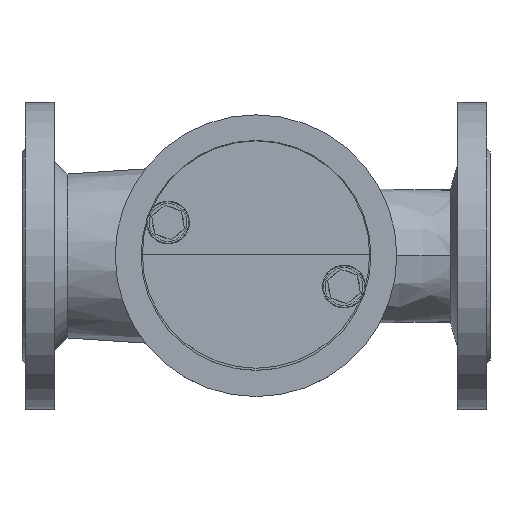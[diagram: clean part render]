
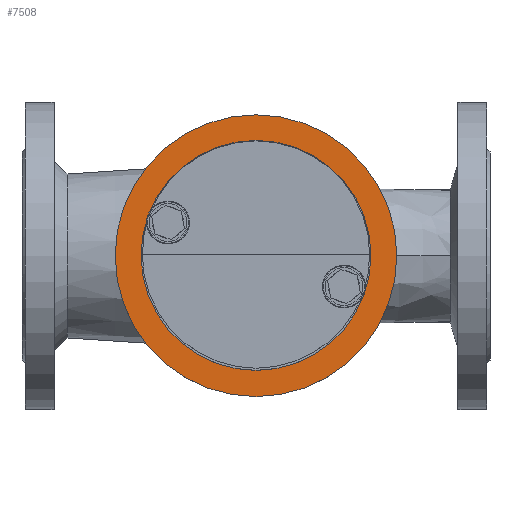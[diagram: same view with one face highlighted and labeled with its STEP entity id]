
A CAD part, top view. The second image highlights one B-rep face of the part: STEP entity #7508.
In plain terms, the highlighted planar face has unit normal (0, 0, 1).
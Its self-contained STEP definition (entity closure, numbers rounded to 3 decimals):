
#1292=FACE_BOUND('',#1917,.T.);
#1362=FACE_OUTER_BOUND('',#1916,.T.);
#1916=EDGE_LOOP('',(#4939,#4940));
#1917=EDGE_LOOP('',(#4941,#4942));
#2479=CIRCLE('',#8169,105.35);
#2480=CIRCLE('',#8170,105.35);
#2481=CIRCLE('',#8171,22.5);
#2482=CIRCLE('',#8172,22.5);
#3115=VERTEX_POINT('',#11780);
#3116=VERTEX_POINT('',#11781);
#3117=VERTEX_POINT('',#11784);
#3118=VERTEX_POINT('',#11785);
#3738=EDGE_CURVE('',#3115,#3116,#2479,.T.);
#3739=EDGE_CURVE('',#3116,#3115,#2480,.T.);
#3740=EDGE_CURVE('',#3117,#3118,#2481,.T.);
#3741=EDGE_CURVE('',#3118,#3117,#2482,.T.);
#4939=ORIENTED_EDGE('',*,*,#3738,.T.);
#4940=ORIENTED_EDGE('',*,*,#3739,.T.);
#4941=ORIENTED_EDGE('',*,*,#3740,.T.);
#4942=ORIENTED_EDGE('',*,*,#3741,.T.);
#6757=PLANE('',#8168);
#7508=ADVANCED_FACE('',(#1362,#1292),#6757,.T.);
#8168=AXIS2_PLACEMENT_3D('',#11779,#9391,#9392);
#8169=AXIS2_PLACEMENT_3D('',#11782,#9393,#9394);
#8170=AXIS2_PLACEMENT_3D('',#11783,#9395,#9396);
#8171=AXIS2_PLACEMENT_3D('',#11786,#9397,#9398);
#8172=AXIS2_PLACEMENT_3D('',#11787,#9399,#9400);
#9391=DIRECTION('center_axis',(0.,0.,1.));
#9392=DIRECTION('ref_axis',(0.,1.,0.));
#9393=DIRECTION('center_axis',(0.,0.,1.));
#9394=DIRECTION('ref_axis',(1.,0.,0.));
#9395=DIRECTION('center_axis',(0.,0.,1.));
#9396=DIRECTION('ref_axis',(1.,0.,0.));
#9397=DIRECTION('center_axis',(0.,0.,-1.));
#9398=DIRECTION('ref_axis',(1.,0.,0.));
#9399=DIRECTION('center_axis',(0.,0.,-1.));
#9400=DIRECTION('ref_axis',(1.,0.,0.));
#11779=CARTESIAN_POINT('Origin',(105.35,0.,130.6));
#11780=CARTESIAN_POINT('',(-105.35,0.,130.6));
#11781=CARTESIAN_POINT('',(105.35,0.,130.6));
#11782=CARTESIAN_POINT('Origin',(0.,0.,130.6));
#11783=CARTESIAN_POINT('Origin',(0.,0.,130.6));
#11784=CARTESIAN_POINT('',(-22.5,0.,130.6));
#11785=CARTESIAN_POINT('',(22.5,0.,130.6));
#11786=CARTESIAN_POINT('Origin',(0.,0.,130.6));
#11787=CARTESIAN_POINT('Origin',(0.,0.,130.6));
